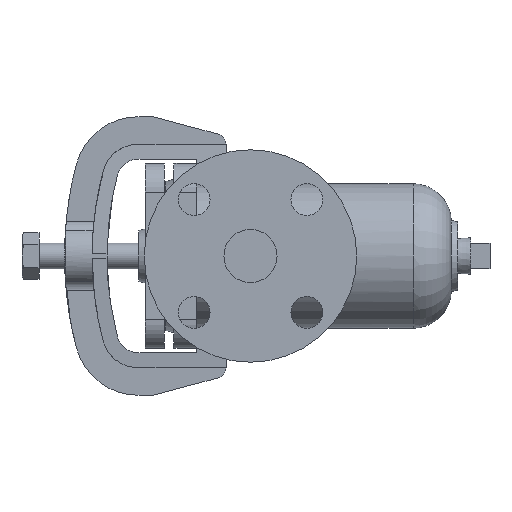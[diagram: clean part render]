
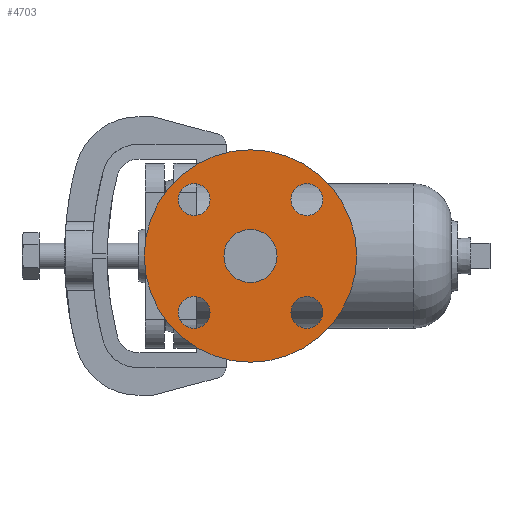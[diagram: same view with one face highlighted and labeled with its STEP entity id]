
A CAD part, left-side view. The second image highlights one B-rep face of the part: STEP entity #4703.
In plain terms, the highlighted planar face has unit normal (-1, 0, 0).
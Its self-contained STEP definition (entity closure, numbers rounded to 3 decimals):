
#20 = EDGE_CURVE ( 'NONE', #7814, #6263, #5761, .T. ) ;
#67 = FACE_BOUND ( 'NONE', #4389, .T. ) ;
#112 = DIRECTION ( 'NONE',  ( 0., -1., 0. ) ) ;
#332 = ORIENTED_EDGE ( 'NONE', *, *, #4062, .F. ) ;
#343 = CARTESIAN_POINT ( 'NONE',  ( -83., 0., 0. ) ) ;
#428 = EDGE_LOOP ( 'NONE', ( #332, #660 ) ) ;
#528 = ORIENTED_EDGE ( 'NONE', *, *, #3426, .F. ) ;
#534 = AXIS2_PLACEMENT_3D ( 'NONE', #7077, #1425, #5892 ) ;
#660 = ORIENTED_EDGE ( 'NONE', *, *, #20, .F. ) ;
#789 = CIRCLE ( 'NONE', #1827, 7.5 ) ;
#852 = CIRCLE ( 'NONE', #7598, 7.5 ) ;
#880 = AXIS2_PLACEMENT_3D ( 'NONE', #2090, #5656, #112 ) ;
#1004 = CIRCLE ( 'NONE', #5143, 50. ) ;
#1032 = DIRECTION ( 'NONE',  ( -1., 0., 0. ) ) ;
#1139 = EDGE_CURVE ( 'NONE', #5052, #5080, #1004, .T. ) ;
#1220 = VERTEX_POINT ( 'NONE', #3414 ) ;
#1228 = AXIS2_PLACEMENT_3D ( 'NONE', #3747, #4882, #7934 ) ;
#1335 = DIRECTION ( 'NONE',  ( -1., 0., 0. ) ) ;
#1425 = DIRECTION ( 'NONE',  ( 1., 0., 0. ) ) ;
#1433 = VERTEX_POINT ( 'NONE', #5240 ) ;
#1565 = DIRECTION ( 'NONE',  ( 0., 1., 0. ) ) ;
#1705 = DIRECTION ( 'NONE',  ( -1., 0., 0. ) ) ;
#1827 = AXIS2_PLACEMENT_3D ( 'NONE', #4337, #4300, #6121 ) ;
#2009 = AXIS2_PLACEMENT_3D ( 'NONE', #3632, #7902, #2337 ) ;
#2090 = CARTESIAN_POINT ( 'NONE',  ( -83., 26.517, 26.517 ) ) ;
#2116 = FACE_BOUND ( 'NONE', #4765, .T. ) ;
#2204 = ORIENTED_EDGE ( 'NONE', *, *, #1139, .T. ) ;
#2206 = CARTESIAN_POINT ( 'NONE',  ( -83., 0., 50. ) ) ;
#2214 = CIRCLE ( 'NONE', #7924, 7.5 ) ;
#2245 = DIRECTION ( 'NONE',  ( 0., 0., 1. ) ) ;
#2250 = ORIENTED_EDGE ( 'NONE', *, *, #6986, .F. ) ;
#2337 = DIRECTION ( 'NONE',  ( 0., -1., 0. ) ) ;
#2449 = CARTESIAN_POINT ( 'NONE',  ( -83., 0., 12.5 ) ) ;
#2477 = CIRCLE ( 'NONE', #5715, 12.5 ) ;
#2523 = FACE_BOUND ( 'NONE', #6632, .T. ) ;
#2524 = EDGE_CURVE ( 'NONE', #4647, #3756, #2477, .T. ) ;
#2911 = CARTESIAN_POINT ( 'NONE',  ( -83., 0., 0. ) ) ;
#3195 = AXIS2_PLACEMENT_3D ( 'NONE', #4955, #3738, #5517 ) ;
#3254 = EDGE_LOOP ( 'NONE', ( #5638, #2250 ) ) ;
#3296 = EDGE_LOOP ( 'NONE', ( #2204, #3372 ) ) ;
#3305 = DIRECTION ( 'NONE',  ( 0., 0., -1. ) ) ;
#3348 = AXIS2_PLACEMENT_3D ( 'NONE', #6572, #5305, #1565 ) ;
#3372 = ORIENTED_EDGE ( 'NONE', *, *, #7708, .T. ) ;
#3375 = PLANE ( 'NONE',  #534 ) ;
#3414 = CARTESIAN_POINT ( 'NONE',  ( -83., -26.517, 34.017 ) ) ;
#3426 = EDGE_CURVE ( 'NONE', #1220, #3548, #852, .T. ) ;
#3534 = CARTESIAN_POINT ( 'NONE',  ( -83., 26.517, -19.017 ) ) ;
#3548 = VERTEX_POINT ( 'NONE', #6064 ) ;
#3632 = CARTESIAN_POINT ( 'NONE',  ( -83., 26.517, 26.517 ) ) ;
#3692 = EDGE_CURVE ( 'NONE', #5489, #7408, #5512, .T. ) ;
#3738 = DIRECTION ( 'NONE',  ( -1., 0., 0. ) ) ;
#3747 = CARTESIAN_POINT ( 'NONE',  ( -83., 26.517, -26.517 ) ) ;
#3756 = VERTEX_POINT ( 'NONE', #4098 ) ;
#3795 = DIRECTION ( 'NONE',  ( 0., 1., 0. ) ) ;
#3906 = ORIENTED_EDGE ( 'NONE', *, *, #7895, .F. ) ;
#3998 = CARTESIAN_POINT ( 'NONE',  ( -83., -26.517, 26.517 ) ) ;
#4062 = EDGE_CURVE ( 'NONE', #6263, #7814, #5241, .T. ) ;
#4098 = CARTESIAN_POINT ( 'NONE',  ( -83., 0., -12.5 ) ) ;
#4300 = DIRECTION ( 'NONE',  ( -1., 0., 0. ) ) ;
#4325 = ORIENTED_EDGE ( 'NONE', *, *, #6384, .F. ) ;
#4337 = CARTESIAN_POINT ( 'NONE',  ( -83., -26.517, 26.517 ) ) ;
#4389 = EDGE_LOOP ( 'NONE', ( #6603, #7863 ) ) ;
#4601 = FACE_OUTER_BOUND ( 'NONE', #3296, .T. ) ;
#4619 = EDGE_CURVE ( 'NONE', #1433, #5940, #2214, .T. ) ;
#4647 = VERTEX_POINT ( 'NONE', #2449 ) ;
#4703 = ADVANCED_FACE ( 'NONE', ( #67, #2523, #5285, #7690, #2116, #4601 ), #3375, .F. ) ;
#4765 = EDGE_LOOP ( 'NONE', ( #7942, #3906 ) ) ;
#4787 = CARTESIAN_POINT ( 'NONE',  ( -83., 26.517, 34.017 ) ) ;
#4882 = DIRECTION ( 'NONE',  ( -1., 0., 0. ) ) ;
#4955 = CARTESIAN_POINT ( 'NONE',  ( -83., 0., 0. ) ) ;
#4965 = DIRECTION ( 'NONE',  ( -1., 0., 0. ) ) ;
#5029 = CIRCLE ( 'NONE', #880, 7.5 ) ;
#5052 = VERTEX_POINT ( 'NONE', #2206 ) ;
#5074 = CARTESIAN_POINT ( 'NONE',  ( -83., 0., 0. ) ) ;
#5080 = VERTEX_POINT ( 'NONE', #5982 ) ;
#5109 = AXIS2_PLACEMENT_3D ( 'NONE', #7272, #1705, #6664 ) ;
#5143 = AXIS2_PLACEMENT_3D ( 'NONE', #343, #1032, #2245 ) ;
#5227 = CARTESIAN_POINT ( 'NONE',  ( -83., -26.517, -19.017 ) ) ;
#5240 = CARTESIAN_POINT ( 'NONE',  ( -83., -26.517, -34.017 ) ) ;
#5241 = CIRCLE ( 'NONE', #5109, 7.5 ) ;
#5285 = FACE_BOUND ( 'NONE', #3254, .T. ) ;
#5305 = DIRECTION ( 'NONE',  ( -1., 0., 0. ) ) ;
#5388 = DIRECTION ( 'NONE',  ( -1., 0., 0. ) ) ;
#5489 = VERTEX_POINT ( 'NONE', #4787 ) ;
#5512 = CIRCLE ( 'NONE', #2009, 7.5 ) ;
#5517 = DIRECTION ( 'NONE',  ( 0., 0., 1. ) ) ;
#5638 = ORIENTED_EDGE ( 'NONE', *, *, #3692, .F. ) ;
#5656 = DIRECTION ( 'NONE',  ( -1., 0., 0. ) ) ;
#5715 = AXIS2_PLACEMENT_3D ( 'NONE', #2911, #5388, #7876 ) ;
#5726 = CARTESIAN_POINT ( 'NONE',  ( -83., 26.517, 19.017 ) ) ;
#5761 = CIRCLE ( 'NONE', #1228, 7.5 ) ;
#5892 = DIRECTION ( 'NONE',  ( 0., 0., -1. ) ) ;
#5940 = VERTEX_POINT ( 'NONE', #5227 ) ;
#5982 = CARTESIAN_POINT ( 'NONE',  ( -83., 0., -50. ) ) ;
#6064 = CARTESIAN_POINT ( 'NONE',  ( -83., -26.517, 19.017 ) ) ;
#6121 = DIRECTION ( 'NONE',  ( 0., 0., -1. ) ) ;
#6263 = VERTEX_POINT ( 'NONE', #3534 ) ;
#6384 = EDGE_CURVE ( 'NONE', #3548, #1220, #789, .T. ) ;
#6482 = DIRECTION ( 'NONE',  ( -1., 0., 0. ) ) ;
#6572 = CARTESIAN_POINT ( 'NONE',  ( -83., -26.517, -26.517 ) ) ;
#6578 = CIRCLE ( 'NONE', #7356, 12.5 ) ;
#6603 = ORIENTED_EDGE ( 'NONE', *, *, #6610, .F. ) ;
#6610 = EDGE_CURVE ( 'NONE', #5940, #1433, #6852, .T. ) ;
#6632 = EDGE_LOOP ( 'NONE', ( #528, #4325 ) ) ;
#6664 = DIRECTION ( 'NONE',  ( 0., 0., 1. ) ) ;
#6705 = CIRCLE ( 'NONE', #3195, 50. ) ;
#6852 = CIRCLE ( 'NONE', #3348, 7.5 ) ;
#6916 = CARTESIAN_POINT ( 'NONE',  ( -83., -26.517, -26.517 ) ) ;
#6986 = EDGE_CURVE ( 'NONE', #7408, #5489, #5029, .T. ) ;
#7077 = CARTESIAN_POINT ( 'NONE',  ( -83., 0., 0. ) ) ;
#7272 = CARTESIAN_POINT ( 'NONE',  ( -83., 26.517, -26.517 ) ) ;
#7356 = AXIS2_PLACEMENT_3D ( 'NONE', #5074, #1335, #7562 ) ;
#7359 = CARTESIAN_POINT ( 'NONE',  ( -83., 26.517, -34.017 ) ) ;
#7408 = VERTEX_POINT ( 'NONE', #5726 ) ;
#7562 = DIRECTION ( 'NONE',  ( 0., 0., 1. ) ) ;
#7598 = AXIS2_PLACEMENT_3D ( 'NONE', #3998, #6482, #3305 ) ;
#7690 = FACE_BOUND ( 'NONE', #428, .T. ) ;
#7708 = EDGE_CURVE ( 'NONE', #5080, #5052, #6705, .T. ) ;
#7814 = VERTEX_POINT ( 'NONE', #7359 ) ;
#7863 = ORIENTED_EDGE ( 'NONE', *, *, #4619, .F. ) ;
#7876 = DIRECTION ( 'NONE',  ( 0., 0., 1. ) ) ;
#7895 = EDGE_CURVE ( 'NONE', #3756, #4647, #6578, .T. ) ;
#7902 = DIRECTION ( 'NONE',  ( -1., 0., 0. ) ) ;
#7924 = AXIS2_PLACEMENT_3D ( 'NONE', #6916, #4965, #3795 ) ;
#7934 = DIRECTION ( 'NONE',  ( 0., 0., 1. ) ) ;
#7942 = ORIENTED_EDGE ( 'NONE', *, *, #2524, .F. ) ;
